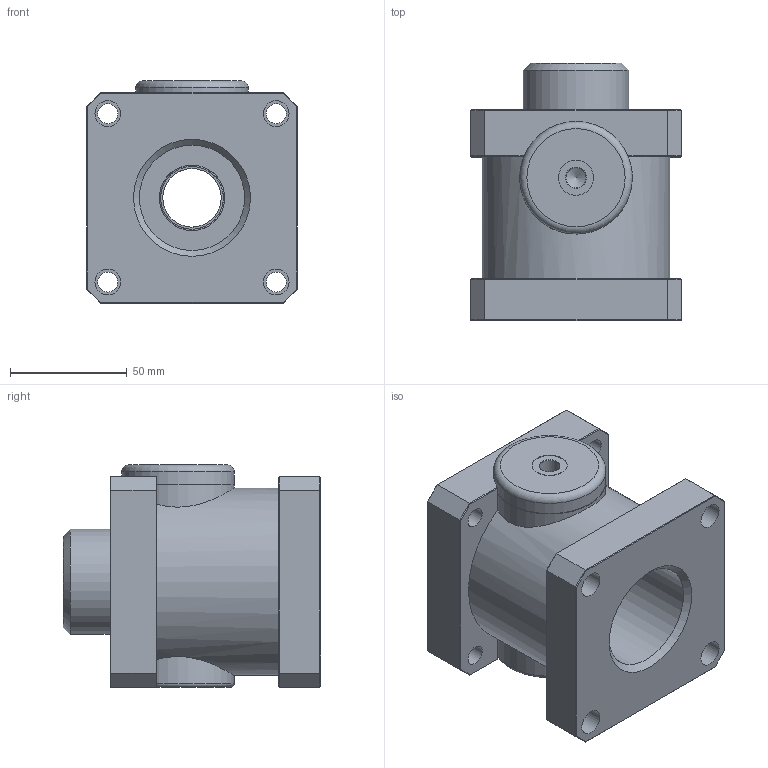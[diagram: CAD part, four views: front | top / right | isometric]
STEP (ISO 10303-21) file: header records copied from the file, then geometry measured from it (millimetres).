
FILE_DESCRIPTION(('STEP AP242'),'1');
FILE_NAME('V.5025 + MV.5080 Feststellpatrone mit Zylinderaufnahme.stp','2026-07-01T13:22:46',(' '),(' '),'Spatial InterOp 3D',' ',' ');
FILE_SCHEMA(('AP242_MANAGED_MODEL_BASED_3D_ENGINEERING_MIM_LF {1 0 10303 442 1 1 4}'));
Length unit declared in the file: millimetre
Products named in the file (3): V.5025 + MV.5080 Feststellpatrone mit Zylinderaufnahme; MV.5080.01; V.5025 Feststellpatrone
Assembly tree (2 placements, depth 2):
  V.5025 + MV.5080 Feststellpatrone mit Zylinderaufnahme
    MV.5080.01
    V.5025 Feststellpatrone
Bounding box: 90 x 110 x 95 mm (x, y, z)
Volume: 518006.8 mm3; surface area: 86769.7 mm2
Topology: 2 solids, 2 shells, 97 faces, 229 edges, 140 vertices
Faces by surface type: plane 66, cylinder 22, cone 7, torus 2
Full cylindrical faces by diameter (mm): 8.5 x4, 8.566 x2, 11 x4, 15 x1, 25 x2, 26.8 x2, 28 x1, 45 x2, 48 x2, 48.142 x1, 80 x1
Entity records: 4062 total; most frequent: CARTESIAN_POINT 913, DIRECTION 438, ORIENTED_EDGE 378, EDGE_CURVE 189, EDGE_LOOP 156, AXIS2_PLACEMENT_3D 155, VERTEX_POINT 132, LINE 128
